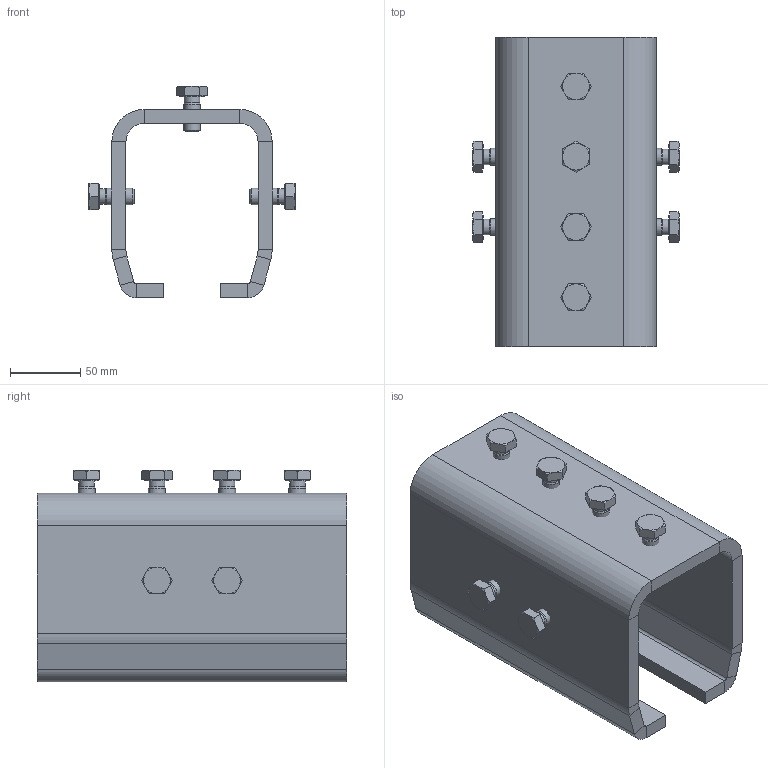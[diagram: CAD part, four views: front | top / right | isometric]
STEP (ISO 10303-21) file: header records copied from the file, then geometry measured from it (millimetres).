
FILE_DESCRIPTION(/* description */ ('Muffe Nr.5_lang '),/* implementation_level */ '2;1');
FILE_NAME(/* name */ 'Q:\sge-ma\Produktmanagement-STB\STB\Workspace\stp\010335150.stp',/* time_stamp */ '2016-07-13T13:00:13+02:00',/* author */ ('avschreier'),/* organization */ (''),/* preprocessor_version */ 'ST-DEVELOPER v16.1',/* originating_system */ 'Autodesk Inventor 2016',/* authorisation */ '');
FILE_SCHEMA (('AUTOMOTIVE_DESIGN { 1 0 10303 214 3 1 1 }'));
Length unit declared in the file: millimetre
Products named in the file (3): 337000195; DIN_EN_ISO_4017-M12x25_en; 010335150
Assembly tree (9 placements, depth 2):
  010335150
    337000195
    DIN_EN_ISO_4017-M12x25_en  x8
Bounding box: 146.85 x 220 x 150.43 mm (x, y, z)
Volume: 880810.5 mm3; surface area: 198948.2 mm2
Topology: 9 solids, 9 shells, 230 faces, 476 edges, 280 vertices
Faces by surface type: plane 122, cone 64, cylinder 44
Full cylindrical faces by diameter (mm): 10.106 x8, 11.053 x8, 12 x8, 17.2 x8
Entity records: 2228 total; most frequent: DIRECTION 392, CARTESIAN_POINT 377, ORIENTED_EDGE 322, EDGE_CURVE 161, AXIS2_PLACEMENT_3D 148, EDGE_LOOP 114, VERTEX_POINT 97, LINE 96
